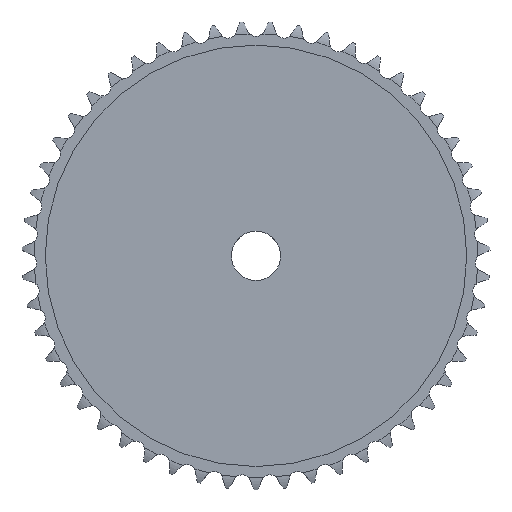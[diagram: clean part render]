
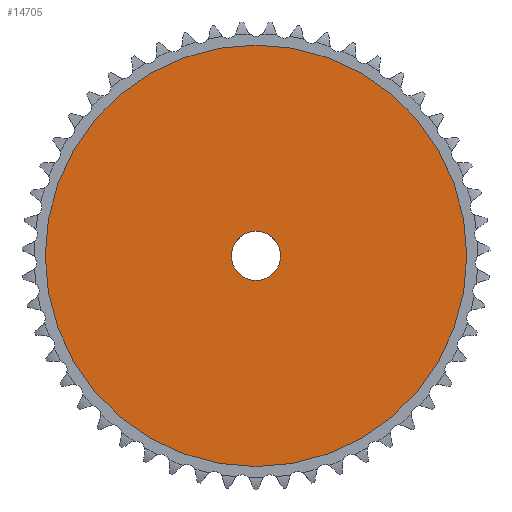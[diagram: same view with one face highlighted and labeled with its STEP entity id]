
A CAD part, top view. The second image highlights one B-rep face of the part: STEP entity #14705.
In plain terms, the highlighted planar face has unit normal (0, 0, 1).
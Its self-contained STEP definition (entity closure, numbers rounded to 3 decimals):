
#8254=CARTESIAN_POINT('',(0.,0.,2.));
#8255=DIRECTION('',(0.,0.,-1.));
#8256=DIRECTION('',(-1.,0.,0.));
#8257=AXIS2_PLACEMENT_3D('',#8254,#8255,#8256);
#8262=CARTESIAN_POINT('',(0.,0.,2.));
#8263=DIRECTION('',(0.,0.,-1.));
#8264=DIRECTION('',(1.,0.,0.));
#8265=AXIS2_PLACEMENT_3D('',#8262,#8263,#8264);
#8270=CARTESIAN_POINT('',(0.,0.,2.));
#8271=DIRECTION('',(0.,0.,1.));
#8272=DIRECTION('',(1.,0.,0.));
#8273=AXIS2_PLACEMENT_3D('',#8270,#8271,#8272);
#8278=CARTESIAN_POINT('',(0.,0.,2.));
#8279=DIRECTION('',(0.,0.,1.));
#8280=DIRECTION('',(-1.,0.,0.));
#8281=AXIS2_PLACEMENT_3D('',#8278,#8279,#8280);
#9162=CARTESIAN_POINT('',(-59.976,0.,2.));
#9163=CARTESIAN_POINT('',(59.976,0.,2.));
#9164=VERTEX_POINT('',#9162);
#9165=VERTEX_POINT('',#9163);
#9182=CARTESIAN_POINT('',(7.,0.,2.));
#9183=VERTEX_POINT('',#9182);
#9184=CARTESIAN_POINT('',(-7.,0.,2.));
#9185=VERTEX_POINT('',#9184);
#14690=CARTESIAN_POINT('',(0.,0.,2.));
#14691=DIRECTION('',(0.,0.,1.));
#14692=DIRECTION('',(1.,0.,0.));
#14693=AXIS2_PLACEMENT_3D('',#14690,#14691,#14692);
#14694=PLANE('',#14693);
#14695=ORIENTED_EDGE('',*,*,#14642,.T.);
#14696=ORIENTED_EDGE('',*,*,#14671,.T.);
#14697=EDGE_LOOP('',(#14695,#14696));
#14698=FACE_OUTER_BOUND('',#14697,.F.);
#14700=ORIENTED_EDGE('',*,*,#14699,.T.);
#14702=ORIENTED_EDGE('',*,*,#14701,.T.);
#14703=EDGE_LOOP('',(#14700,#14702));
#14704=FACE_BOUND('',#14703,.F.);
#14705=ADVANCED_FACE('',(#14698,#14704),#14694,.T.);
#8258=CIRCLE('',#8257,59.976);
#8266=CIRCLE('',#8265,59.976);
#8274=CIRCLE('',#8273,7.);
#8282=CIRCLE('',#8281,7.);
#14642=EDGE_CURVE('',#9164,#9165,#8258,.T.);
#14671=EDGE_CURVE('',#9165,#9164,#8266,.T.);
#14699=EDGE_CURVE('',#9183,#9185,#8274,.T.);
#14701=EDGE_CURVE('',#9185,#9183,#8282,.T.);
